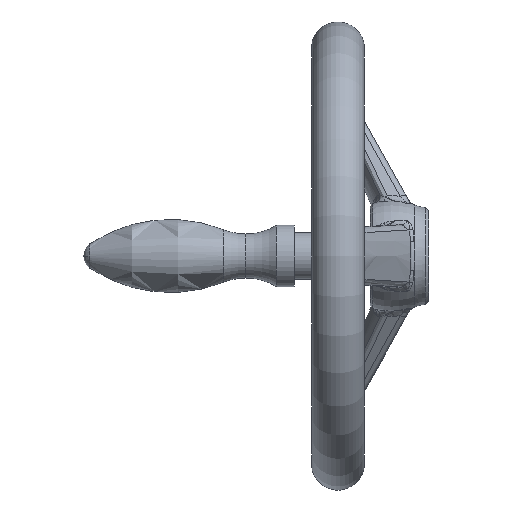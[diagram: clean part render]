
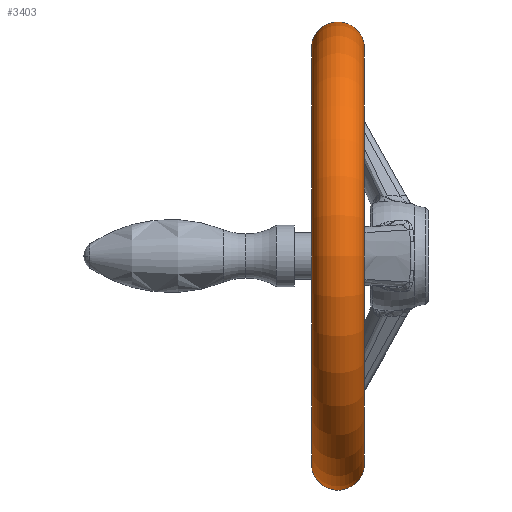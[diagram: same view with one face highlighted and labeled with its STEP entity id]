
A CAD part, left-side view. The second image highlights one B-rep face of the part: STEP entity #3403.
In plain terms, the highlighted toroidal (fillet/blend) face has major radius 70.938 mm and minor radius 9.062 mm.
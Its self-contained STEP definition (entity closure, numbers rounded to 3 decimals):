
#1291 = EDGE_CURVE ( 'NONE', #2789, #1423, #19573, .T. ) ;
#1292 = EDGE_CURVE ( 'NONE', #2977, #1420, #19621, .T. ) ;
#1392 = EDGE_CURVE ( 'NONE', #1423, #1420, #19640, .T. ) ;
#1420 = VERTEX_POINT ( 'NONE', #19732 ) ;
#1423 = VERTEX_POINT ( 'NONE', #19730 ) ;
#2789 = VERTEX_POINT ( 'NONE', #22741 ) ;
#2977 = VERTEX_POINT ( 'NONE', #23035 ) ;
#3030 = EDGE_CURVE ( 'NONE', #2789, #2977, #23034, .T. ) ;
#3313 = ORIENTED_EDGE ( 'NONE', *, *, #1291, .F. ) ;
#3355 = EDGE_LOOP ( 'NONE', ( #3313, #3414, #3393, #3399 ) ) ;
#3393 = ORIENTED_EDGE ( 'NONE', *, *, #1292, .T. ) ;
#3399 = ORIENTED_EDGE ( 'NONE', *, *, #1392, .F. ) ;
#3403 = ADVANCED_FACE ( 'NONE', ( #23371 ), #23374, .T. ) ;
#3414 = ORIENTED_EDGE ( 'NONE', *, *, #3030, .T. ) ;
#19563 = DIRECTION ( 'NONE',  ( 0., 0., -1. ) ) ;
#19564 = DIRECTION ( 'NONE',  ( 1., 0., 0. ) ) ;
#19566 = CARTESIAN_POINT ( 'NONE',  ( 0., 31., 70.938 ) ) ;
#19573 = CIRCLE ( 'NONE', #19579, 9.063 ) ;
#19579 = AXIS2_PLACEMENT_3D ( 'NONE', #19566, #19564, #19563 ) ;
#19599 = AXIS2_PLACEMENT_3D ( 'NONE', #19701, #19677, #19676 ) ;
#19613 = DIRECTION ( 'NONE',  ( 0., 0., 1. ) ) ;
#19614 = DIRECTION ( 'NONE',  ( -1., 0., 0. ) ) ;
#19615 = CARTESIAN_POINT ( 'NONE',  ( 0., 31., -70.938 ) ) ;
#19616 = AXIS2_PLACEMENT_3D ( 'NONE', #19615, #19614, #19613 ) ;
#19621 = CIRCLE ( 'NONE', #19616, 9.063 ) ;
#19640 = CIRCLE ( 'NONE', #19599, 72. ) ;
#19676 = DIRECTION ( 'NONE',  ( 0., 0., -1. ) ) ;
#19677 = DIRECTION ( 'NONE',  ( 0., -1., 0. ) ) ;
#19701 = CARTESIAN_POINT ( 'NONE',  ( 0., 22., 0. ) ) ;
#19730 = CARTESIAN_POINT ( 'NONE',  ( 0., 22., 72. ) ) ;
#19732 = CARTESIAN_POINT ( 'NONE',  ( 0., 22., -72. ) ) ;
#22741 = CARTESIAN_POINT ( 'NONE',  ( 0., 40., 72. ) ) ;
#23034 = CIRCLE ( 'NONE', #23126, 72. ) ;
#23035 = CARTESIAN_POINT ( 'NONE',  ( 0., 40., -72. ) ) ;
#23109 = DIRECTION ( 'NONE',  ( 0., 0., -1. ) ) ;
#23110 = DIRECTION ( 'NONE',  ( 0., -1., 0. ) ) ;
#23111 = CARTESIAN_POINT ( 'NONE',  ( 0., 40., 0. ) ) ;
#23126 = AXIS2_PLACEMENT_3D ( 'NONE', #23111, #23110, #23109 ) ;
#23368 = AXIS2_PLACEMENT_3D ( 'NONE', #23433, #23432, #23427 ) ;
#23371 = FACE_OUTER_BOUND ( 'NONE', #3355, .T. ) ;
#23374 = TOROIDAL_SURFACE ( 'NONE', #23368, 70.938, 9.063 ) ;
#23427 = DIRECTION ( 'NONE',  ( 0., 0., -1. ) ) ;
#23432 = DIRECTION ( 'NONE',  ( 0., -1., 0. ) ) ;
#23433 = CARTESIAN_POINT ( 'NONE',  ( 0., 31., 0. ) ) ;
